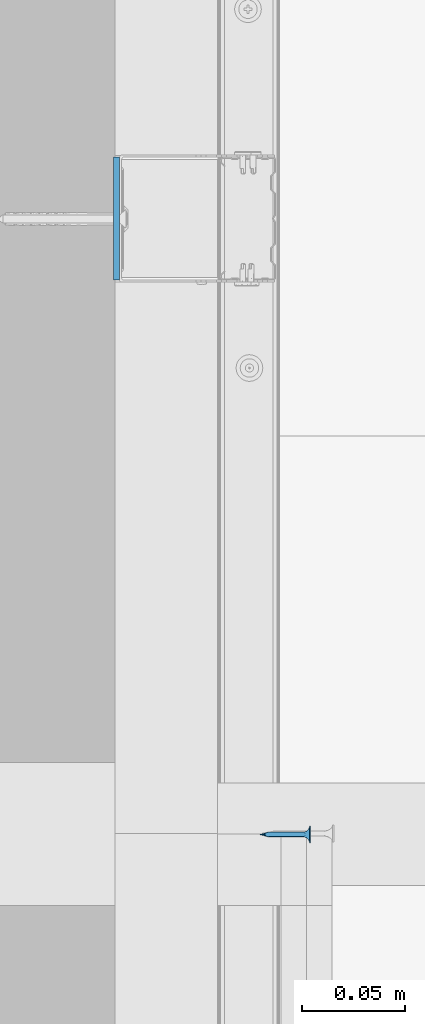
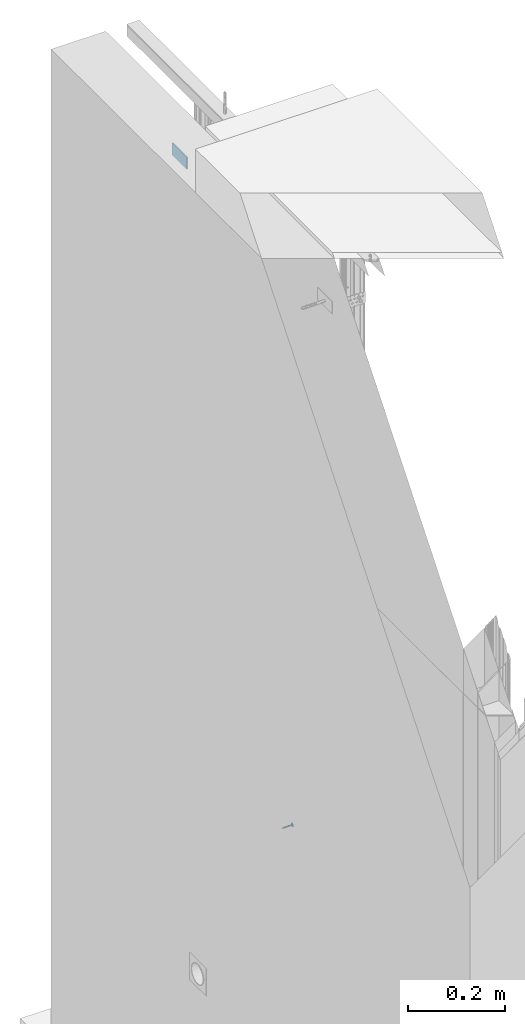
# One storey, part 56 of 61: 2 walls.
"""IFC2X3 building model written with IfcOpenShell, lengths in millimetres."""

from ifc_helpers import new_model, si_unit, frame, origin_with_axes, place, context, subcontext, project, spatial, faceted_brep, material, type_object, element, save


model = new_model("IFC2X3")

# Units and contexts
model_context = context("Model", 3, world=origin_with_axes())
body_context = subcontext(model_context, "Body", "Model", "MODEL_VIEW")
ifc_project = project(units=[si_unit("LENGTHUNIT", "METRE", prefix="MILLI"), si_unit("AREAUNIT", "SQUARE_METRE"), si_unit("VOLUMEUNIT", "CUBIC_METRE")], contexts=[model_context])

# Site, building, storey
site_placement = place(None, frame((2152.1410261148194, -2015.0250894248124, 57.61556563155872), z_axis=(0.0, 0.0, 1.0), x_axis=(-1.1102230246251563e-16, 1.0, 0.0)))
site = spatial("IfcSite", under=ifc_project, at=site_placement, Name="Default Site", CompositionType="ELEMENT")
building_placement = place(site_placement, origin_with_axes())
building = spatial("IfcBuilding", under=site, at=building_placement, Name="Default Building", CompositionType="ELEMENT")
storey_placement = place(building_placement, origin_with_axes())
storey = spatial("IfcBuildingStorey", under=building, at=storey_placement, Name="Default Building Storey", CompositionType="ELEMENT", Elevation=57.61556563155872)

# Walls
ifc_material = material(Name="Default")
wall_type_1 = type_object("IfcWallType", Name="Wkręt RIGIPS TN 25#11", PredefinedType="NOTDEFINED")
wall_1_placement = place(storey_placement, frame((3275.1152392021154, 5317.713057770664, 300.12146995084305), z_axis=(0.0, 0.0, 1.0), x_axis=(1.0, 0.0, 0.0)))
element("IfcWall", 1, at=wall_1_placement, inside=storey, type_object=wall_type_1, material=ifc_material, Name="Wkręt RIGIPS TN 25", context=body_context, shape_type="Brep", body=[
    faceted_brep([(-141.48753293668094, -3390.5567221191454, 555.1619773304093), (-141.48753293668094, -3391.0209445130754, 555.1619773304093), (-141.53774659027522, -3391.0209445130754, 555.8000000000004), (-141.53774659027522, -3390.5567221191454, 555.8000000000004), (-141.33812900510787, -3390.5567221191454, 554.5396649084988), (-141.33812900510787, -3391.0209445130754, 554.5396649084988), (-141.09321328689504, -3390.5567221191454, 553.948386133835), (-141.09321328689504, -3391.0209445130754, 553.948386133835), (-140.7588165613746, -3390.5567221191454, 553.4027002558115), (-140.7588165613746, -3391.0209445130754, 553.4027002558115), (-140.34317265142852, -3391.0209445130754, 552.9160436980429), (-140.45417279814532, -3390.5567221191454, 553.0314906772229), (-139.85651609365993, -3391.0209445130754, 552.5003997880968), (-140.10800974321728, -3390.5567221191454, 552.6986613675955), (-139.7251262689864, -3390.5567221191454, 552.4088260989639), (-139.31083021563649, -3391.0209445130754, 552.1660030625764), (-139.31083021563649, -3390.5567221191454, 552.1660030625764), (-138.71955144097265, -3391.0209445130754, 551.9210873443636), (-138.87086516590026, -3390.5567221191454, 551.9735585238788), (-138.4113302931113, -3390.5567221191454, 551.8341602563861), (-138.09723901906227, -3391.0209445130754, 551.7716834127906), (-137.93859616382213, -3390.5567221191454, 551.7497405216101), (-137.45921634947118, -3391.0209445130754, 551.7214697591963), (-137.45921634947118, -3390.5567221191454, 551.7214697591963), (-136.82119367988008, -3390.5567221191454, 551.7716834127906), (-136.82119367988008, -3391.0209445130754, 551.7716834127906), (-136.1988812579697, -3390.5567221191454, 551.9210873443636), (-136.1988812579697, -3391.0209445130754, 551.9210873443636), (-135.6076024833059, -3390.5567221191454, 552.1660030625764), (-135.6076024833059, -3391.0209445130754, 552.1660030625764), (-135.06191660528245, -3390.5567221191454, 552.5003997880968), (-135.06191660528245, -3391.0209445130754, 552.5003997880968), (-134.57526004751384, -3390.5567221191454, 552.9160436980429), (-134.57526004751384, -3391.0209445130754, 552.9160436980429), (-134.15961613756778, -3390.5567221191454, 553.4027002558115), (-134.15961613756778, -3391.0209445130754, 553.4027002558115), (-133.82521941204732, -3390.5567221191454, 553.948386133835), (-133.82521941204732, -3391.0209445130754, 553.948386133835), (-133.58030369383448, -3390.5567221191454, 554.5396649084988), (-133.58030369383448, -3391.0209445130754, 554.5396649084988), (-133.38068610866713, -3391.0209445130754, 555.8000000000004), (-133.38068610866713, -3390.5567221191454, 555.8000000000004), (-133.43089976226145, -3390.5567221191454, 556.4380226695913), (-133.43089976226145, -3391.0209445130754, 556.4380226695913), (-133.43089976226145, -3391.0209445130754, 555.1619773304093), (-133.43089976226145, -3390.5567221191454, 555.1619773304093), (-133.58030369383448, -3390.5567221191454, 557.0603350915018), (-133.58030369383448, -3391.0209445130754, 557.0603350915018), (-133.82521941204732, -3390.5567221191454, 557.6516138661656), (-133.82521941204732, -3391.0209445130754, 557.6516138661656), (-134.15961613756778, -3390.5567221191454, 558.1972997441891), (-134.15961613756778, -3391.0209445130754, 558.1972997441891), (-134.57526004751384, -3390.5567221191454, 558.6839563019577), (-134.57526004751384, -3391.0209445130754, 558.6839563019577), (-135.06191660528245, -3390.5567221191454, 559.0996002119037), (-135.06191660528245, -3391.0209445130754, 559.0996002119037), (-135.6076024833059, -3390.5567221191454, 559.4339969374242), (-135.6076024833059, -3391.0209445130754, 559.4339969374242), (-136.1988812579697, -3390.5567221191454, 559.678912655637), (-136.1988812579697, -3391.0209445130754, 559.678912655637), (-136.82119367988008, -3390.5567221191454, 559.82831658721), (-136.82119367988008, -3391.0209445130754, 559.82831658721), (-137.45921634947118, -3390.5567221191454, 559.8785302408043), (-137.45921634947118, -3391.0209445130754, 559.8785302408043), (-138.09723901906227, -3390.5567221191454, 559.82831658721), (-138.09723901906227, -3391.0209445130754, 559.82831658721), (-138.71955144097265, -3390.5567221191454, 559.678912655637), (-138.71955144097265, -3391.0209445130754, 559.678912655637), (-139.31083021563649, -3390.5567221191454, 559.4339969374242), (-139.31083021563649, -3391.0209445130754, 559.4339969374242), (-139.85651609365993, -3390.5567221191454, 559.0996002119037), (-139.85651609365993, -3391.0209445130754, 559.0996002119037), (-140.34317265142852, -3390.5567221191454, 558.6839563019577), (-140.34317265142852, -3391.0209445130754, 558.6839563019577), (-140.7588165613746, -3390.5567221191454, 558.1972997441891), (-140.7588165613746, -3391.0209445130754, 558.1972997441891), (-141.09321328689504, -3390.5567221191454, 557.6516138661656), (-141.09321328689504, -3391.0209445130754, 557.6516138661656), (-141.33812900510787, -3390.5567221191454, 557.0603350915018), (-141.33812900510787, -3391.0209445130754, 557.0603350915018), (-141.48753293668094, -3390.5567221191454, 556.4380226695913), (-141.48753293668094, -3391.0209445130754, 556.4380226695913), (-137.65172779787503, -3387.475459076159, 554.5845305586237), (-137.45921634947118, -3387.475459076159, 554.5693795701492), (-137.80606153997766, -3388.2297325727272, 554.5055561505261), (-137.45921634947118, -3388.2297325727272, 554.4598930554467), (-137.83949898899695, -3387.475459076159, 554.6296104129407), (-138.12926982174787, -3388.2297325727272, 554.6394333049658), (-138.01790634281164, -3387.475459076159, 554.7035091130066), (-138.1825568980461, -3387.475459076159, 554.8044072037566), (-138.4068150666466, -3388.2297325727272, 554.8524012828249), (-138.32939643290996, -3387.475459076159, 554.9298199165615), (-138.45480914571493, -3387.475459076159, 555.0766594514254), (-138.61978304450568, -3388.2297325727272, 555.1299465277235), (-138.55570723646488, -3387.475459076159, 555.2413100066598), (-138.75366019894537, -3388.2297325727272, 555.4531548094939), (-138.62960593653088, -3387.475459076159, 555.4197173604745), (-138.67468579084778, -3387.475459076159, 555.6074885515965), (-138.79932329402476, -3388.2297325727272, 555.7999999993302), (-138.6898367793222, -3387.475459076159, 555.8000000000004), (-138.67468579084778, -3387.475459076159, 555.9925114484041), (-138.75366019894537, -3388.2297325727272, 556.1468451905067), (-138.62960593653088, -3387.475459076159, 556.1802826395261), (-138.61978304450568, -3388.2297325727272, 556.4700534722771), (-138.55570723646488, -3387.475459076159, 556.3586899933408), (-138.45480914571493, -3387.475459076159, 556.5233405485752), (-138.4068150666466, -3388.2297325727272, 556.7475987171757), (-138.32939643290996, -3387.475459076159, 556.670180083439), (-138.1825568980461, -3387.475459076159, 556.795592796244), (-138.12926982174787, -3388.2297325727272, 556.9605666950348), (-138.01790634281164, -3387.475459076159, 556.896490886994), (-137.80606153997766, -3388.2297325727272, 557.0944438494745), (-137.83949898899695, -3387.475459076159, 556.9703895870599), (-137.65172779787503, -3387.475459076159, 557.0154694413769), (-137.45921634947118, -3388.2297325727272, 557.1401069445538), (-137.45921634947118, -3387.475459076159, 557.0306204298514), (-137.26670490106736, -3387.475459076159, 557.0154694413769), (-137.11237115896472, -3388.2297325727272, 557.0944438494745), (-137.0789337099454, -3387.475459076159, 556.9703895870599), (-136.78916287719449, -3388.2297325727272, 556.9605666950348), (-136.9005263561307, -3387.475459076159, 556.896490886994), (-136.73587580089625, -3387.475459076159, 556.795592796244), (-136.51161763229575, -3388.2297325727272, 556.7475987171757), (-136.5890362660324, -3387.475459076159, 556.670180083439), (-136.46362355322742, -3387.475459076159, 556.5233405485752), (-136.29864965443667, -3388.2297325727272, 556.4700534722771), (-136.3627254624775, -3387.475459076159, 556.3586899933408), (-136.164772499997, -3388.2297325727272, 556.1468451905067), (-136.28882676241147, -3387.475459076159, 556.1802826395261), (-136.2437469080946, -3387.475459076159, 555.9925114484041), (-136.1191094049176, -3388.2297325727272, 555.7999999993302), (-136.22859591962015, -3387.475459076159, 555.8000000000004), (-136.2437469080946, -3387.475459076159, 555.6074885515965), (-136.164772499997, -3388.2297325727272, 555.4531548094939), (-136.28882676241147, -3387.475459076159, 555.4197173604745), (-136.29864965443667, -3388.2297325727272, 555.1299465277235), (-136.3627254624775, -3387.475459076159, 555.2413100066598), (-136.46362355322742, -3387.475459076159, 555.0766594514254), (-136.51161763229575, -3388.2297325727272, 554.8524012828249), (-136.5890362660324, -3387.475459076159, 554.9298199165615), (-136.73587580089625, -3387.475459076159, 554.8044072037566), (-136.78916287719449, -3388.2297325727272, 554.6394333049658), (-136.9005263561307, -3387.475459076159, 554.7035091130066), (-137.11237115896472, -3388.2297325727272, 554.5055561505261), (-137.0789337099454, -3387.475459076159, 554.6296104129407), (-137.26670490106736, -3387.475459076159, 554.5845305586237), (-137.45921634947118, -3388.9361426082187, 554.1737111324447), (-137.8801308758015, -3388.9361426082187, 554.2291255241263), (-138.272360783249, -3388.9361426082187, 554.3915925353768), (-138.60917621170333, -3388.9361426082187, 554.6500401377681), (-138.86762381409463, -3388.9361426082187, 554.9868555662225), (-139.0300908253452, -3388.9361426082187, 555.37908547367), (-139.08550521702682, -3388.9361426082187, 555.7999999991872), (-139.0300908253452, -3388.9361426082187, 556.2209145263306), (-138.86762381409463, -3388.9361426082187, 556.6131444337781), (-138.60917621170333, -3388.9361426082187, 556.9499598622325), (-138.272360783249, -3388.9361426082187, 557.2084074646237), (-137.8801308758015, -3388.9361426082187, 557.3708744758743), (-137.45921634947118, -3388.9361426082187, 557.4262888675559), (-137.03830182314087, -3388.9361426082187, 557.3708744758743), (-136.64607191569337, -3388.9361426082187, 557.2084074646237), (-136.30925648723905, -3388.9361426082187, 556.9499598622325), (-136.05080888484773, -3388.9361426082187, 556.6131444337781), (-135.88834187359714, -3388.9361426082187, 556.2209145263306), (-135.83292748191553, -3388.9361426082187, 555.7999999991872), (-135.88834187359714, -3388.9361426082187, 555.37908547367), (-136.05080888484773, -3388.9361426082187, 554.9868555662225), (-136.30925648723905, -3388.9361426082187, 554.6500401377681), (-136.64607191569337, -3388.9361426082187, 554.3915925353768), (-137.03830182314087, -3388.9361426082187, 554.2291255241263), (-137.45921634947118, -3389.5539382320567, 553.7273430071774), (-137.99565943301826, -3389.5539382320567, 553.7979670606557), (-138.49554484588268, -3389.5539382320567, 554.0050264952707), (-138.9248060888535, -3389.5539382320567, 554.334410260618), (-139.25418985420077, -3389.5539382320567, 554.7636715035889), (-139.46124928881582, -3389.5539382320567, 555.2635569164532), (-139.53187334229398, -3389.5539382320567, 555.7999999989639), (-139.46124928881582, -3389.5539382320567, 556.3364430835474), (-139.25418985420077, -3389.5539382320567, 556.8363284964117), (-138.9248060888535, -3389.5539382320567, 557.2655897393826), (-138.49554484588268, -3389.5539382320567, 557.5949735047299), (-137.99565943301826, -3389.5539382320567, 557.8020329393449), (-137.45921634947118, -3389.5539382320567, 557.8726569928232), (-136.92277326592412, -3389.5539382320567, 557.8020329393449), (-136.42288785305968, -3389.5539382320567, 557.5949735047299), (-135.99362661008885, -3389.5539382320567, 557.2655897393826), (-135.6642428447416, -3389.5539382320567, 556.8363284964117), (-135.45718341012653, -3389.5539382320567, 556.3364430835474), (-135.38655935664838, -3389.5539382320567, 555.7999999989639), (-135.45718341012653, -3389.5539382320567, 555.2635569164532), (-135.6642428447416, -3389.5539382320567, 554.7636715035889), (-135.99362661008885, -3389.5539382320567, 554.334410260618), (-136.42288785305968, -3389.5539382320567, 554.0050264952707), (-136.92277326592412, -3389.5539382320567, 553.7979670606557), (-137.45921634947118, -3390.047479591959, 553.1465392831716), (-138.1459825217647, -3390.047479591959, 553.2369539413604), (-138.78594670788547, -3390.047479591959, 553.5020355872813), (-139.33549641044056, -3390.047479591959, 553.923719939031), (-139.7571807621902, -3390.047479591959, 554.473269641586), (-140.0222624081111, -3390.047479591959, 555.1132338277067), (-140.11267706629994, -3390.047479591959, 555.7999999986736), (-140.0222624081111, -3390.047479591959, 556.4867661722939), (-139.7571807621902, -3390.047479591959, 557.1267303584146), (-139.33549641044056, -3390.047479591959, 557.6762800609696), (-138.78594670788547, -3390.047479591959, 558.0979644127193), (-138.1459825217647, -3390.047479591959, 558.3630460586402), (-137.45921634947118, -3390.047479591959, 558.453460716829), (-136.77245017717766, -3390.047479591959, 558.3630460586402), (-136.13248599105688, -3390.047479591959, 558.0979644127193), (-135.5829362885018, -3390.047479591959, 557.6762800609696), (-135.16125193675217, -3390.047479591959, 557.1267303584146), (-134.89617029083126, -3390.047479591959, 556.4867661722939), (-134.80575563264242, -3390.047479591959, 555.7999999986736), (-134.89617029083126, -3390.047479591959, 555.1132338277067), (-135.16125193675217, -3390.047479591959, 554.473269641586), (-135.5829362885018, -3390.047479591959, 553.923719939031), (-136.13248599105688, -3390.047479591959, 553.5020355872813), (-136.77245017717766, -3390.047479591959, 553.2369539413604), (-137.45921634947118, -3390.3882942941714, 552.4648055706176), (-138.32242816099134, -3390.3882942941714, 552.5784495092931), (-139.12681356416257, -3390.3882942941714, 552.9116369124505), (-139.81755491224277, -3390.3882942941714, 553.4416614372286), (-140.34757943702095, -3390.3882942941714, 554.132402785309), (-140.68076684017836, -3390.3882942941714, 554.9367881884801), (-140.79441077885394, -3390.3882942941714, 555.7999999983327), (-140.68076684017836, -3390.3882942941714, 556.6632118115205), (-140.34757943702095, -3390.3882942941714, 557.4675972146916), (-139.81755491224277, -3390.3882942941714, 558.158338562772), (-139.12681356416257, -3390.3882942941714, 558.6883630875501), (-138.32242816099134, -3390.3882942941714, 559.0215504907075), (-137.45921634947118, -3390.3882942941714, 559.135194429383), (-136.59600453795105, -3390.3882942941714, 559.0215504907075), (-135.7916191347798, -3390.3882942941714, 558.6883630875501), (-135.1008777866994, -3390.3882942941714, 558.158338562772), (-134.5708532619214, -3390.3882942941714, 557.4675972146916), (-134.23766585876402, -3390.3882942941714, 556.6632118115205), (-134.1240219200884, -3390.3882942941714, 555.7999999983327), (-134.23766585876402, -3390.3882942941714, 554.9367881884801), (-134.5708532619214, -3390.3882942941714, 554.132402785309), (-135.1008777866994, -3390.3882942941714, 553.4416614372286), (-135.7916191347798, -3390.3882942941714, 552.9116369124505), (-136.59600453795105, -3390.3882942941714, 552.5784495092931), (-138.67468579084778, -3370.558073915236, 555.6074885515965), (-138.6898367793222, -3370.558073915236, 555.8000000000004), (-138.62960593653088, -3370.558073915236, 555.4197173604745), (-138.55570723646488, -3370.558073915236, 555.2413100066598), (-138.45480914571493, -3370.558073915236, 555.0766594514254), (-138.32939643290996, -3370.558073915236, 554.9298199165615), (-138.1825568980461, -3370.558073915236, 554.8044072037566), (-138.01790634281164, -3370.558073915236, 554.7035091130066), (-137.83949898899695, -3370.558073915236, 554.6296104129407), (-137.65172779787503, -3370.558073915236, 554.5845305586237), (-137.4592163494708, -3370.558073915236, 554.5693795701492), (-137.26670490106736, -3370.558073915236, 554.5845305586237), (-137.0789337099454, -3370.558073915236, 554.6296104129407), (-136.9005263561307, -3370.558073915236, 554.7035091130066), (-136.73587580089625, -3370.558073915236, 554.8044072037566), (-136.5890362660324, -3370.558073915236, 554.9298199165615), (-136.46362355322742, -3370.558073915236, 555.0766594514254), (-136.3627254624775, -3370.558073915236, 555.2413100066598), (-136.28882676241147, -3370.558073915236, 555.4197173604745), (-136.22859591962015, -3370.558073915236, 555.8000000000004), (-136.2437469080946, -3370.558073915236, 555.9925114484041), (-136.2437469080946, -3370.558073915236, 555.6074885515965), (-136.28882676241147, -3370.558073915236, 556.1802826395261), (-136.3627254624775, -3370.558073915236, 556.3586899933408), (-136.46362355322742, -3370.558073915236, 556.5233405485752), (-136.5890362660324, -3370.558073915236, 556.670180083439), (-136.73587580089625, -3370.558073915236, 556.795592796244), (-136.9005263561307, -3370.558073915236, 556.896490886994), (-137.0789337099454, -3370.558073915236, 556.9703895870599), (-137.26670490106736, -3370.558073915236, 557.0154694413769), (-137.4592163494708, -3370.558073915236, 557.0306204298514), (-137.65172779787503, -3370.558073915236, 557.0154694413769), (-137.83949898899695, -3370.558073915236, 556.9703895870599), (-138.01790634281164, -3370.558073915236, 556.896490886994), (-138.1825568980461, -3370.558073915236, 556.795592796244), (-138.32939643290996, -3370.558073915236, 556.670180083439), (-138.45480914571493, -3370.558073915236, 556.5233405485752), (-138.55570723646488, -3370.558073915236, 556.3586899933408), (-138.62960593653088, -3370.558073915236, 556.1802826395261), (-138.67468579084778, -3370.558073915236, 555.9925114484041), (-137.4592163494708, -3366.0210335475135, 555.8000000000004), (-139.9592162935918, -3391.0209445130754, 555.2999999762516), (-139.9592162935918, -3391.0209445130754, 556.300000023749), (-137.95921637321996, -3391.0209445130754, 556.300000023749), (-137.95921637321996, -3391.0209445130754, 558.2999999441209), (-136.9592163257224, -3391.0209445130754, 558.2999999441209), (-136.9592163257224, -3391.0209445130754, 556.300000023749), (-134.9592164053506, -3391.0209445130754, 556.300000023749), (-134.9592164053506, -3391.0209445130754, 555.2999999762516), (-136.9592163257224, -3391.0209445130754, 555.2999999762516), (-136.9592163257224, -3391.0209445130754, 553.3000000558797), (-137.95921637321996, -3391.0209445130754, 553.3000000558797), (-137.95921637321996, -3391.0209445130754, 555.2999999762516), (-136.9592163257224, -3390.6289749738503, 558.2999999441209), (-137.95921637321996, -3390.6289749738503, 558.2999999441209), (-137.95921637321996, -3390.6289749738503, 556.300000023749), (-139.9592162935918, -3390.6289749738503, 556.300000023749), (-139.9592162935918, -3390.6289749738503, 555.2999999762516), (-137.95921637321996, -3390.6289749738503, 555.2999999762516), (-137.95921637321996, -3390.6289749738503, 553.3000000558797), (-136.9592163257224, -3390.6289749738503, 553.3000000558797), (-136.9592163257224, -3390.6289749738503, 555.2999999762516), (-134.9592164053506, -3390.6289749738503, 555.2999999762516), (-134.9592164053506, -3390.6289749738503, 556.300000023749), (-136.9592163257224, -3390.6289749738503, 556.300000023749)], [[[0, 1, 2, 3]], [[1, 0, 4, 5]], [[5, 4, 6, 7]], [[8, 9, 7, 6]], [[8, 10, 9]], [[8, 11, 10]], [[12, 11, 13]], [[12, 10, 11]], [[13, 14, 12]], [[14, 15, 12]], [[14, 16, 15]], [[17, 16, 18]], [[17, 15, 16]], [[18, 19, 17]], [[20, 19, 21]], [[20, 17, 19]], [[21, 22, 20]], [[21, 23, 22]], [[24, 25, 22, 23]], [[25, 24, 26, 27]], [[27, 26, 28, 29]], [[30, 31, 29, 28]], [[31, 30, 32, 33]], [[34, 35, 33, 32]], [[35, 34, 36, 37]], [[37, 36, 38, 39]], [[40, 41, 42, 43]], [[44, 45, 41, 40]], [[45, 44, 39, 38]], [[43, 42, 46, 47]], [[47, 46, 48, 49]], [[50, 51, 49, 48]], [[51, 50, 52, 53]], [[54, 55, 53, 52]], [[55, 54, 56, 57]], [[57, 56, 58, 59]], [[60, 61, 59, 58]], [[61, 60, 62, 63]], [[64, 65, 63, 62]], [[65, 64, 66, 67]], [[67, 66, 68, 69]], [[70, 71, 69, 68]], [[71, 70, 72, 73]], [[74, 75, 73, 72]], [[75, 74, 76, 77]], [[77, 76, 78, 79]], [[80, 81, 79, 78]], [[81, 80, 3, 2]], [[82, 83, 84]], [[83, 85, 84]], [[84, 86, 82]], [[84, 87, 88, 86]], [[89, 88, 87]], [[87, 90, 89]], [[90, 91, 89]], [[92, 91, 93]], [[91, 90, 93]], [[93, 94, 92]], [[93, 95, 96, 94]], [[97, 96, 95]], [[95, 98, 97]], [[98, 99, 97]], [[100, 99, 101]], [[99, 98, 101]], [[101, 102, 100]], [[101, 103, 104, 102]], [[105, 104, 103]], [[103, 106, 105]], [[106, 107, 105]], [[108, 107, 109]], [[107, 106, 109]], [[109, 110, 108]], [[109, 111, 112, 110]], [[113, 112, 111]], [[111, 114, 113]], [[114, 115, 113]], [[116, 115, 117]], [[115, 114, 117]], [[117, 118, 116]], [[117, 119, 120, 118]], [[121, 120, 119]], [[119, 122, 121]], [[122, 123, 121]], [[124, 123, 125]], [[123, 122, 125]], [[125, 126, 124]], [[125, 127, 128, 126]], [[129, 128, 127]], [[127, 130, 129]], [[130, 131, 129]], [[132, 131, 133]], [[131, 130, 133]], [[133, 134, 132]], [[133, 135, 136, 134]], [[137, 136, 135]], [[135, 138, 137]], [[138, 139, 137]], [[140, 139, 141]], [[139, 138, 141]], [[141, 142, 140]], [[141, 143, 144, 142]], [[145, 144, 143]], [[143, 85, 145]], [[85, 83, 145]], [[146, 147, 84, 85]], [[84, 147, 148, 87]], [[87, 148, 149, 90]], [[90, 149, 150, 93]], [[93, 150, 151, 95]], [[95, 151, 152, 98]], [[98, 152, 153, 101]], [[101, 153, 154, 103]], [[103, 154, 155, 106]], [[106, 155, 156, 109]], [[109, 156, 157, 111]], [[111, 157, 158, 114]], [[114, 158, 159, 117]], [[117, 159, 160, 119]], [[119, 160, 161, 122]], [[122, 161, 162, 125]], [[125, 162, 163, 127]], [[127, 163, 164, 130]], [[130, 164, 165, 133]], [[133, 165, 166, 135]], [[135, 166, 167, 138]], [[138, 167, 168, 141]], [[141, 168, 169, 143]], [[143, 169, 146, 85]], [[170, 171, 147, 146]], [[147, 171, 172, 148]], [[148, 172, 173, 149]], [[149, 173, 174, 150]], [[150, 174, 175, 151]], [[151, 175, 176, 152]], [[152, 176, 177, 153]], [[153, 177, 178, 154]], [[154, 178, 179, 155]], [[155, 179, 180, 156]], [[156, 180, 181, 157]], [[157, 181, 182, 158]], [[158, 182, 183, 159]], [[159, 183, 184, 160]], [[160, 184, 185, 161]], [[161, 185, 186, 162]], [[162, 186, 187, 163]], [[163, 187, 188, 164]], [[164, 188, 189, 165]], [[165, 189, 190, 166]], [[166, 190, 191, 167]], [[167, 191, 192, 168]], [[168, 192, 193, 169]], [[169, 193, 170, 146]], [[194, 195, 171, 170]], [[171, 195, 196, 172]], [[172, 196, 197, 173]], [[173, 197, 198, 174]], [[174, 198, 199, 175]], [[175, 199, 200, 176]], [[176, 200, 201, 177]], [[177, 201, 202, 178]], [[178, 202, 203, 179]], [[179, 203, 204, 180]], [[180, 204, 205, 181]], [[181, 205, 206, 182]], [[182, 206, 207, 183]], [[183, 207, 208, 184]], [[184, 208, 209, 185]], [[185, 209, 210, 186]], [[186, 210, 211, 187]], [[187, 211, 212, 188]], [[188, 212, 213, 189]], [[189, 213, 214, 190]], [[190, 214, 215, 191]], [[191, 215, 216, 192]], [[192, 216, 217, 193]], [[193, 217, 194, 170]], [[21, 19, 218]], [[19, 219, 218]], [[218, 23, 21]], [[218, 219, 195, 194]], [[18, 16, 219]], [[16, 220, 219]], [[219, 19, 18]], [[195, 219, 220, 196]], [[13, 11, 221]], [[14, 13, 220]], [[13, 221, 220]], [[220, 16, 14]], [[196, 220, 221, 197]], [[8, 6, 222]], [[222, 221, 8]], [[221, 11, 8]], [[197, 221, 222, 198]], [[4, 223, 222, 6]], [[198, 222, 223, 199]], [[0, 3, 223]], [[3, 224, 223]], [[223, 4, 0]], [[199, 223, 224, 200]], [[80, 78, 225]], [[225, 224, 80]], [[224, 3, 80]], [[200, 224, 225, 201]], [[78, 76, 226, 225]], [[201, 225, 226, 202]], [[74, 72, 226]], [[72, 227, 226]], [[226, 76, 74]], [[202, 226, 227, 203]], [[70, 68, 228]], [[228, 227, 70]], [[227, 72, 70]], [[203, 227, 228, 204]], [[68, 66, 229, 228]], [[204, 228, 229, 205]], [[64, 62, 229]], [[62, 230, 229]], [[229, 66, 64]], [[205, 229, 230, 206]], [[60, 58, 231]], [[231, 230, 60]], [[230, 62, 60]], [[206, 230, 231, 207]], [[58, 56, 232, 231]], [[207, 231, 232, 208]], [[54, 52, 232]], [[52, 233, 232]], [[232, 56, 54]], [[208, 232, 233, 209]], [[50, 48, 234]], [[234, 233, 50]], [[233, 52, 50]], [[209, 233, 234, 210]], [[48, 46, 235, 234]], [[210, 234, 235, 211]], [[42, 41, 235]], [[41, 236, 235]], [[235, 46, 42]], [[211, 235, 236, 212]], [[45, 38, 237]], [[237, 236, 45]], [[236, 41, 45]], [[212, 236, 237, 213]], [[36, 238, 237, 38]], [[213, 237, 238, 214]], [[34, 32, 238]], [[32, 239, 238]], [[238, 36, 34]], [[214, 238, 239, 215]], [[30, 28, 240]], [[240, 239, 30]], [[239, 32, 30]], [[215, 239, 240, 216]], [[26, 241, 240, 28]], [[216, 240, 241, 217]], [[217, 241, 218, 194]], [[24, 23, 241]], [[23, 218, 241]], [[241, 26, 24]], [[242, 97, 99, 243]], [[97, 242, 244, 96]], [[96, 244, 245, 94]], [[246, 92, 94, 245]], [[92, 246, 247, 91]], [[248, 89, 91, 247]], [[89, 248, 249, 88]], [[88, 249, 250, 86]], [[251, 82, 86, 250]], [[82, 251, 252, 83]], [[253, 145, 83, 252]], [[145, 253, 254, 144]], [[144, 254, 255, 142]], [[256, 140, 142, 255]], [[140, 256, 257, 139]], [[258, 137, 139, 257]], [[137, 258, 259, 136]], [[136, 259, 260, 134]], [[131, 261, 262, 129]], [[132, 263, 261, 131]], [[263, 132, 134, 260]], [[129, 262, 264, 128]], [[128, 264, 265, 126]], [[266, 124, 126, 265]], [[124, 266, 267, 123]], [[268, 121, 123, 267]], [[121, 268, 269, 120]], [[120, 269, 270, 118]], [[271, 116, 118, 270]], [[116, 271, 272, 115]], [[273, 113, 115, 272]], [[113, 273, 274, 112]], [[112, 274, 275, 110]], [[276, 108, 110, 275]], [[108, 276, 277, 107]], [[278, 105, 107, 277]], [[105, 278, 279, 104]], [[104, 279, 280, 102]], [[281, 100, 102, 280]], [[100, 281, 243, 99]], [[282, 244, 242]], [[242, 243, 282]], [[282, 245, 244]], [[282, 247, 246]], [[246, 245, 282]], [[282, 249, 248]], [[248, 247, 282]], [[282, 250, 249]], [[282, 252, 251]], [[251, 250, 282]], [[282, 254, 253]], [[253, 252, 282]], [[282, 255, 254]], [[282, 257, 256]], [[256, 255, 282]], [[282, 259, 258]], [[258, 257, 282]], [[282, 260, 259]], [[282, 261, 263]], [[263, 260, 282]], [[282, 264, 262]], [[262, 261, 282]], [[282, 265, 264]], [[282, 267, 266]], [[266, 265, 282]], [[282, 269, 268]], [[268, 267, 282]], [[282, 270, 269]], [[282, 272, 271]], [[271, 270, 282]], [[282, 274, 273]], [[273, 272, 282]], [[282, 275, 274]], [[282, 277, 276]], [[276, 275, 282]], [[282, 279, 278]], [[278, 277, 282]], [[282, 280, 279]], [[282, 243, 281]], [[281, 280, 282]], [[75, 77, 79, 81, 2, 1, 5, 7, 9, 10, 12, 15, 17, 20, 22, 25, 27, 29, 31, 33, 35, 37, 39, 44, 40, 43, 47, 49, 51, 53, 55, 57, 59, 61, 63, 65, 67, 69, 71, 73], [283, 284, 285, 286, 287, 288, 289, 290, 291, 292, 293, 294]], [[295, 296, 297, 298, 299, 300, 301, 302, 303, 304, 305, 306]], [[303, 291, 290, 304]], [[304, 290, 289, 305]], [[305, 289, 288, 306]], [[306, 288, 287, 295]], [[295, 287, 286, 296]], [[296, 286, 285, 297]], [[297, 285, 284, 298]], [[298, 284, 283, 299]], [[299, 283, 294, 300]], [[300, 294, 293, 301]], [[301, 293, 292, 302]], [[302, 292, 291, 303]]]),
])
wall_type_2 = type_object("IfcWallType", Name="Taśma uszczelniająca piankowa RIGIPS szer.30mm#1", PredefinedType="NOTDEFINED")
wall_2_placement = place(storey_placement, frame((3408.037086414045, 2019.7786110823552, 2405.887262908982), z_axis=(0.0, 0.0, 1.0), x_axis=(1.0, 0.0, 0.0)))
element("IfcWall", 2, at=wall_2_placement, inside=storey, type_object=wall_type_2, material=ifc_material, Name="Taśma uszczelniająca piankowa RIGIPS szer.30mm", context=body_context, shape_type="Brep", body=[
    faceted_brep([(59.99999865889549, 0.0, 4.511946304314e-12), (0.0, 0.0, 0.0), (1.0828671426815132e-12, -2.2379254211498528e-11, -29.999999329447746), (59.99999865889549, -2.2379254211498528e-11, -29.999999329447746), (0.0, 3.000000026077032, 0.0), (1.0828671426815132e-12, 3.000000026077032, -29.999999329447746), (59.99999865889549, 3.000000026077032, 0.0), (59.99999865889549, 3.000000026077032, -29.999999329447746)], [[[0, 1, 2, 3]], [[1, 4, 5, 2]], [[4, 6, 7, 5]], [[6, 0, 3, 7]], [[7, 3, 2, 5]], [[0, 6, 4, 1]]]),
])

save(model, "model.ifc")
